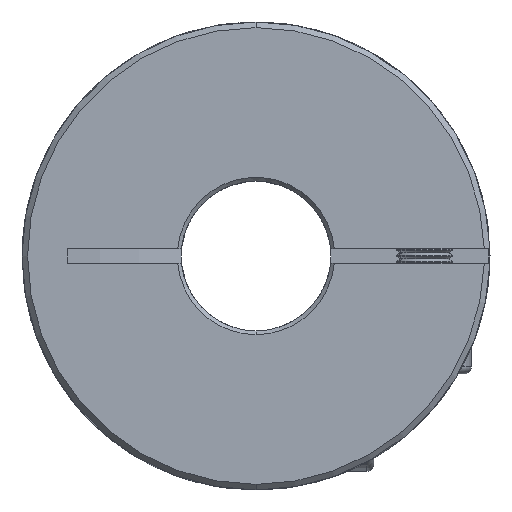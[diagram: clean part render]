
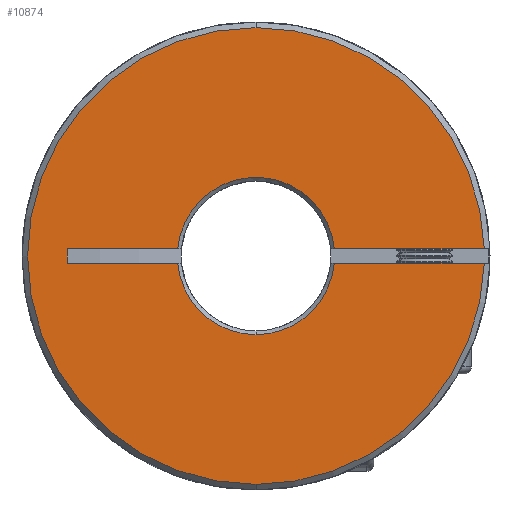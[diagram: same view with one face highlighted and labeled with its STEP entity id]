
A CAD part, front view. The second image highlights one B-rep face of the part: STEP entity #10874.
In plain terms, the highlighted planar face has unit normal (0, -1, 0).
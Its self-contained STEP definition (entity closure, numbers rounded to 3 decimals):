
#317 = DIRECTION ( 'NONE',  ( 0., 0., 1. ) ) ;
#344 = DIRECTION ( 'NONE',  ( 0., -1., 0. ) ) ;
#349 = VERTEX_POINT ( 'NONE', #16955 ) ;
#431 = EDGE_CURVE ( 'NONE', #6860, #16352, #2960, .T. ) ;
#877 = VECTOR ( 'NONE', #6096, 1000. ) ;
#1096 = VECTOR ( 'NONE', #13770, 1000. ) ;
#1158 = PLANE ( 'NONE',  #3485 ) ;
#1523 = CARTESIAN_POINT ( 'NONE',  ( 0., 0., 0. ) ) ;
#1570 = DIRECTION ( 'NONE',  ( 0., 0., 1. ) ) ;
#1784 = AXIS2_PLACEMENT_3D ( 'NONE', #4235, #344, #1570 ) ;
#1994 = CIRCLE ( 'NONE', #9975, 24.4 ) ;
#2516 = DIRECTION ( 'NONE',  ( 1., 0., 0. ) ) ;
#2575 = LINE ( 'NONE', #8181, #1096 ) ;
#2622 = CARTESIAN_POINT ( 'NONE',  ( -20.149, 0., 0.75 ) ) ;
#2960 = CIRCLE ( 'NONE', #16353, 8.4 ) ;
#3122 = CIRCLE ( 'NONE', #10841, 24.4 ) ;
#3258 = CARTESIAN_POINT ( 'NONE',  ( 0., 0., 0. ) ) ;
#3320 = DIRECTION ( 'NONE',  ( 0., 0., 1. ) ) ;
#3463 = DIRECTION ( 'NONE',  ( 0., 0., 1. ) ) ;
#3485 = AXIS2_PLACEMENT_3D ( 'NONE', #5330, #17386, #9325 ) ;
#3783 = LINE ( 'NONE', #7111, #14703 ) ;
#3964 = ORIENTED_EDGE ( 'NONE', *, *, #12181, .F. ) ;
#3982 = VERTEX_POINT ( 'NONE', #4615 ) ;
#4065 = CARTESIAN_POINT ( 'NONE',  ( 0., 0., -24.4 ) ) ;
#4182 = DIRECTION ( 'NONE',  ( 0., 0., 1. ) ) ;
#4228 = EDGE_CURVE ( 'NONE', #349, #16994, #15034, .T. ) ;
#4235 = CARTESIAN_POINT ( 'NONE',  ( 0., 0., 0. ) ) ;
#4615 = CARTESIAN_POINT ( 'NONE',  ( -8.366, 0., -0.75 ) ) ;
#4725 = LINE ( 'NONE', #6560, #14834 ) ;
#4729 = CARTESIAN_POINT ( 'NONE',  ( -8.366, 0., 0.75 ) ) ;
#4832 = CIRCLE ( 'NONE', #17008, 8.4 ) ;
#5049 = VERTEX_POINT ( 'NONE', #15685 ) ;
#5114 = DIRECTION ( 'NONE',  ( 0., 0., 1. ) ) ;
#5142 = ORIENTED_EDGE ( 'NONE', *, *, #431, .T. ) ;
#5249 = CIRCLE ( 'NONE', #1784, 24.4 ) ;
#5330 = CARTESIAN_POINT ( 'NONE',  ( -50., 0., 32.858 ) ) ;
#5773 = ORIENTED_EDGE ( 'NONE', *, *, #4228, .T. ) ;
#6096 = DIRECTION ( 'NONE',  ( 1., 0., 0. ) ) ;
#6460 = ORIENTED_EDGE ( 'NONE', *, *, #9754, .T. ) ;
#6533 = DIRECTION ( 'NONE',  ( 0., 1., 0. ) ) ;
#6548 = CARTESIAN_POINT ( 'NONE',  ( 8.366, 0., -0.75 ) ) ;
#6560 = CARTESIAN_POINT ( 'NONE',  ( -50., 0., 0.75 ) ) ;
#6714 = CARTESIAN_POINT ( 'NONE',  ( 24.388, 0., -0.75 ) ) ;
#6828 = VERTEX_POINT ( 'NONE', #6714 ) ;
#6837 = CARTESIAN_POINT ( 'NONE',  ( 0., 0., 0. ) ) ;
#6860 = VERTEX_POINT ( 'NONE', #6548 ) ;
#7076 = ORIENTED_EDGE ( 'NONE', *, *, #8107, .T. ) ;
#7111 = CARTESIAN_POINT ( 'NONE',  ( -50., 0., 0.75 ) ) ;
#7221 = CARTESIAN_POINT ( 'NONE',  ( 0., 0., -8.4 ) ) ;
#7488 = VERTEX_POINT ( 'NONE', #9807 ) ;
#7559 = ORIENTED_EDGE ( 'NONE', *, *, #14545, .T. ) ;
#7653 = CARTESIAN_POINT ( 'NONE',  ( -20.149, 0., -0.75 ) ) ;
#7945 = EDGE_CURVE ( 'NONE', #13673, #7488, #4832, .T. ) ;
#7963 = EDGE_CURVE ( 'NONE', #5049, #10196, #5249, .T. ) ;
#8107 = EDGE_CURVE ( 'NONE', #16994, #13673, #3783, .T. ) ;
#8168 = DIRECTION ( 'NONE',  ( 0., 1., 0. ) ) ;
#8181 = CARTESIAN_POINT ( 'NONE',  ( -50., 0., -0.75 ) ) ;
#9175 = ORIENTED_EDGE ( 'NONE', *, *, #7945, .T. ) ;
#9264 = AXIS2_PLACEMENT_3D ( 'NONE', #6837, #11084, #317 ) ;
#9325 = DIRECTION ( 'NONE',  ( 0., 0., 1. ) ) ;
#9754 = EDGE_CURVE ( 'NONE', #10196, #11305, #1994, .T. ) ;
#9807 = CARTESIAN_POINT ( 'NONE',  ( 8.366, 0., 0.75 ) ) ;
#9836 = EDGE_CURVE ( 'NONE', #7488, #5049, #4725, .T. ) ;
#9975 = AXIS2_PLACEMENT_3D ( 'NONE', #17052, #14273, #3463 ) ;
#10077 = DIRECTION ( 'NONE',  ( 0., -1., 0. ) ) ;
#10196 = VERTEX_POINT ( 'NONE', #17090 ) ;
#10841 = AXIS2_PLACEMENT_3D ( 'NONE', #3258, #10077, #3320 ) ;
#10874 = ADVANCED_FACE ( 'NONE', ( #16905 ), #1158, .F. ) ;
#11084 = DIRECTION ( 'NONE',  ( 0., 1., 0. ) ) ;
#11305 = VERTEX_POINT ( 'NONE', #4065 ) ;
#11426 = EDGE_CURVE ( 'NONE', #349, #3982, #2575, .T. ) ;
#12181 = EDGE_CURVE ( 'NONE', #6860, #6828, #12869, .T. ) ;
#12683 = CARTESIAN_POINT ( 'NONE',  ( -50., 0., -0.75 ) ) ;
#12869 = LINE ( 'NONE', #12683, #877 ) ;
#13234 = CARTESIAN_POINT ( 'NONE',  ( 0., 0., 0. ) ) ;
#13673 = VERTEX_POINT ( 'NONE', #4729 ) ;
#13770 = DIRECTION ( 'NONE',  ( 1., 0., 0. ) ) ;
#14122 = DIRECTION ( 'NONE',  ( 1., 0., 0. ) ) ;
#14273 = DIRECTION ( 'NONE',  ( 0., -1., 0. ) ) ;
#14545 = EDGE_CURVE ( 'NONE', #16352, #3982, #16836, .T. ) ;
#14614 = VECTOR ( 'NONE', #5114, 1000. ) ;
#14666 = ORIENTED_EDGE ( 'NONE', *, *, #15038, .T. ) ;
#14703 = VECTOR ( 'NONE', #14122, 1000. ) ;
#14834 = VECTOR ( 'NONE', #2516, 1000. ) ;
#15034 = LINE ( 'NONE', #7653, #14614 ) ;
#15038 = EDGE_CURVE ( 'NONE', #11305, #6828, #3122, .T. ) ;
#15627 = EDGE_LOOP ( 'NONE', ( #3964, #5142, #7559, #17416, #5773, #7076, #9175, #15889, #16840, #6460, #14666 ) ) ;
#15685 = CARTESIAN_POINT ( 'NONE',  ( 24.388, 0., 0.75 ) ) ;
#15889 = ORIENTED_EDGE ( 'NONE', *, *, #9836, .T. ) ;
#15948 = DIRECTION ( 'NONE',  ( 0., 0., 1. ) ) ;
#16352 = VERTEX_POINT ( 'NONE', #7221 ) ;
#16353 = AXIS2_PLACEMENT_3D ( 'NONE', #13234, #6533, #15948 ) ;
#16836 = CIRCLE ( 'NONE', #9264, 8.4 ) ;
#16840 = ORIENTED_EDGE ( 'NONE', *, *, #7963, .T. ) ;
#16905 = FACE_OUTER_BOUND ( 'NONE', #15627, .T. ) ;
#16955 = CARTESIAN_POINT ( 'NONE',  ( -20.149, 0., -0.75 ) ) ;
#16994 = VERTEX_POINT ( 'NONE', #2622 ) ;
#17008 = AXIS2_PLACEMENT_3D ( 'NONE', #1523, #8168, #4182 ) ;
#17052 = CARTESIAN_POINT ( 'NONE',  ( 0., 0., 0. ) ) ;
#17090 = CARTESIAN_POINT ( 'NONE',  ( 0., 0., 24.4 ) ) ;
#17386 = DIRECTION ( 'NONE',  ( 0., 1., 0. ) ) ;
#17416 = ORIENTED_EDGE ( 'NONE', *, *, #11426, .F. ) ;
